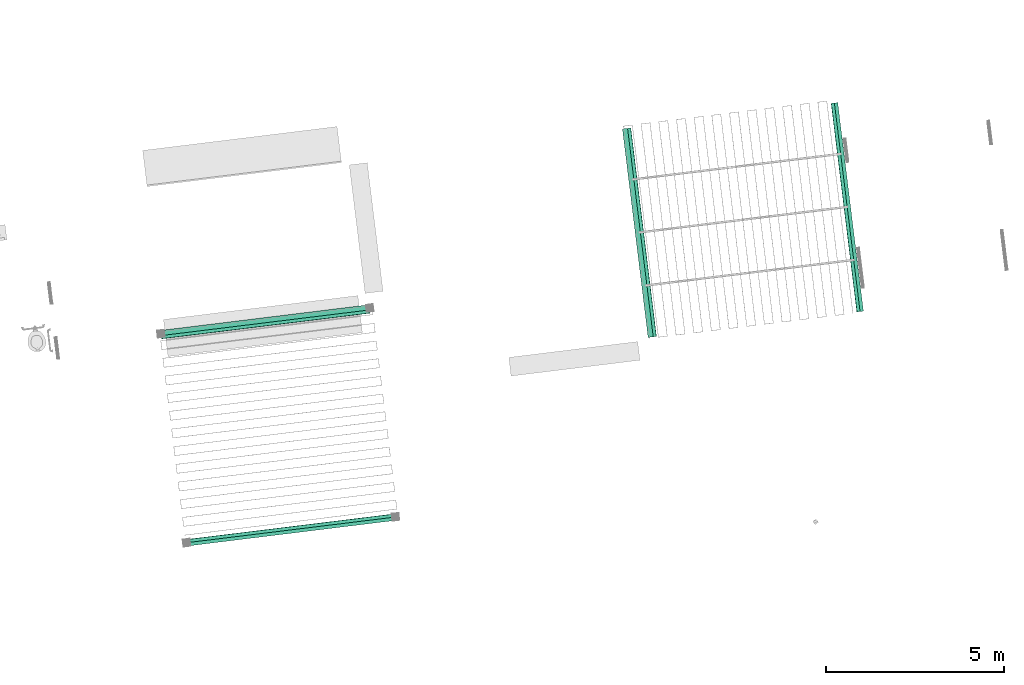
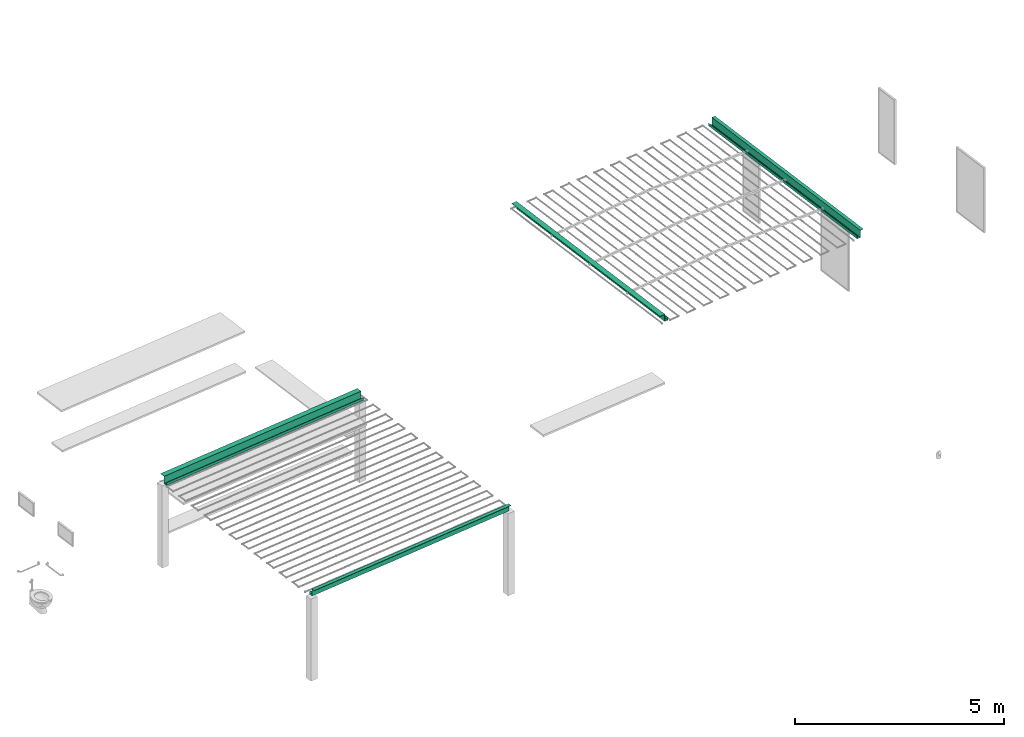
# One storey, part 3 of 10: 4 flow terminals.
"""IFC2X3 building model written with IfcOpenShell, lengths in metres."""

from ifc_helpers import new_model, entity, si_unit, converted_unit, derived_unit, direction, frame, origin, place, context, subcontext, project, spatial, polyline, outline, extrude, source, transform, mapped, material, type_object, type_shapes, element, save


model = new_model("IFC2X3")

# Units and contexts
model_context = context("Model", 3, precision=1e-05, world=origin(), true_north=direction((6.123031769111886e-17, 1.0)))
body_context = subcontext(model_context, "Body", "Model", "MODEL_VIEW")
ifc_project = project(units=[si_unit("LENGTHUNIT", "METRE"), si_unit("AREAUNIT", "SQUARE_METRE"), si_unit("VOLUMEUNIT", "CUBIC_METRE"), converted_unit("PLANEANGLEUNIT", "DEGREE", entity("IfcRatioMeasure", 0.017453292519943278), si_unit("PLANEANGLEUNIT", "RADIAN"), dimensions=[0, 0, 0, 0, 0, 0, 0]), si_unit("MASSUNIT", "GRAM", prefix="KILO"), derived_unit("MASSDENSITYUNIT", [(si_unit("MASSUNIT", "GRAM", prefix="KILO"), 1), (si_unit("LENGTHUNIT", "METRE"), -3)]), derived_unit("IONCONCENTRATIONUNIT", [(si_unit("MASSUNIT", "GRAM", prefix="KILO"), 1), (si_unit("LENGTHUNIT", "METRE"), -3)]), derived_unit("MOMENTOFINERTIAUNIT", [(si_unit("LENGTHUNIT", "METRE"), 4)]), si_unit("TIMEUNIT", "SECOND"), si_unit("FREQUENCYUNIT", "HERTZ"), si_unit("THERMODYNAMICTEMPERATUREUNIT", "DEGREE_CELSIUS"), derived_unit("THERMALTRANSMITTANCEUNIT", [(si_unit("MASSUNIT", "GRAM", prefix="KILO"), 1), (si_unit("THERMODYNAMICTEMPERATUREUNIT", "KELVIN"), -1), (si_unit("TIMEUNIT", "SECOND"), -3)]), derived_unit("THERMALCONDUCTANCEUNIT", [(si_unit("MASSUNIT", "GRAM", prefix="KILO"), 1), (si_unit("THERMODYNAMICTEMPERATUREUNIT", "KELVIN"), -1), (si_unit("TIMEUNIT", "SECOND"), -3), (si_unit("LENGTHUNIT", "METRE"), 1)]), derived_unit("VOLUMETRICFLOWRATEUNIT", [(si_unit("LENGTHUNIT", "METRE"), 3), (si_unit("TIMEUNIT", "SECOND"), -1)]), derived_unit("MASSFLOWRATEUNIT", [(si_unit("MASSUNIT", "GRAM", prefix="KILO"), 1), (si_unit("TIMEUNIT", "SECOND"), -1)]), derived_unit("ROTATIONALFREQUENCYUNIT", [(si_unit("TIMEUNIT", "SECOND"), -1)]), si_unit("ELECTRICCURRENTUNIT", "AMPERE"), si_unit("ELECTRICVOLTAGEUNIT", "VOLT"), si_unit("POWERUNIT", "WATT"), si_unit("FORCEUNIT", "NEWTON", prefix="KILO"), si_unit("ILLUMINANCEUNIT", "LUX"), si_unit("LUMINOUSFLUXUNIT", "LUMEN"), si_unit("LUMINOUSINTENSITYUNIT", "CANDELA"), derived_unit("USERDEFINED", [(si_unit("MASSUNIT", "GRAM", prefix="KILO"), -1), (si_unit("LENGTHUNIT", "METRE"), -2), (si_unit("TIMEUNIT", "SECOND"), 3), (si_unit("LUMINOUSFLUXUNIT", "LUMEN"), 1)]), derived_unit("USERDEFINED", [(si_unit("MASSUNIT", "GRAM", prefix="KILO"), 1), (si_unit("TIMEUNIT", "SECOND"), -3), (si_unit("LENGTHUNIT", "METRE"), 3), (si_unit("ELECTRICCURRENTUNIT", "AMPERE"), -2)]), derived_unit("SOUNDPOWERUNIT", [(si_unit("MASSUNIT", "GRAM", prefix="KILO"), 1), (si_unit("TIMEUNIT", "SECOND"), -3), (si_unit("LENGTHUNIT", "METRE"), 2)]), derived_unit("SOUNDPRESSUREUNIT", [(si_unit("MASSUNIT", "GRAM", prefix="KILO"), 1), (si_unit("LENGTHUNIT", "METRE"), -1), (si_unit("TIMEUNIT", "SECOND"), -2)]), derived_unit("LINEARVELOCITYUNIT", [(si_unit("LENGTHUNIT", "METRE"), 1), (si_unit("TIMEUNIT", "SECOND"), -1)]), si_unit("PRESSUREUNIT", "PASCAL"), derived_unit("USERDEFINED", [(si_unit("MASSUNIT", "GRAM", prefix="KILO"), 1), (si_unit("LENGTHUNIT", "METRE"), -2), (si_unit("TIMEUNIT", "SECOND"), -2)]), derived_unit("LINEARFORCEUNIT", [(si_unit("MASSUNIT", "GRAM", prefix="KILO"), 1), (si_unit("TIMEUNIT", "SECOND"), -2)]), derived_unit("PLANARFORCEUNIT", [(si_unit("MASSUNIT", "GRAM", prefix="KILO"), 1), (si_unit("LENGTHUNIT", "METRE"), -1), (si_unit("TIMEUNIT", "SECOND"), -2)]), derived_unit("SPECIFICHEATCAPACITYUNIT", [(si_unit("THERMODYNAMICTEMPERATUREUNIT", "KELVIN"), -1), (si_unit("LENGTHUNIT", "METRE"), 2), (si_unit("TIMEUNIT", "SECOND"), -2)]), derived_unit("HEATINGVALUEUNIT", [(si_unit("LENGTHUNIT", "METRE"), 2), (si_unit("TIMEUNIT", "SECOND"), -2)]), derived_unit("VAPORPERMEABILITYUNIT", [(si_unit("LENGTHUNIT", "METRE"), -1), (si_unit("TIMEUNIT", "SECOND"), 1)]), derived_unit("DYNAMICVISCOSITYUNIT", [(si_unit("MASSUNIT", "GRAM", prefix="KILO"), 1), (si_unit("TIMEUNIT", "SECOND"), -1), (si_unit("LENGTHUNIT", "METRE"), -1)]), derived_unit("THERMALEXPANSIONCOEFFICIENTUNIT", [(si_unit("THERMODYNAMICTEMPERATUREUNIT", "KELVIN"), -1)]), derived_unit("MODULUSOFELASTICITYUNIT", [(si_unit("MASSUNIT", "GRAM", prefix="KILO"), 1), (si_unit("LENGTHUNIT", "METRE"), -1), (si_unit("TIMEUNIT", "SECOND"), -2)]), derived_unit("ISOTHERMALMOISTURECAPACITYUNIT", [(si_unit("LENGTHUNIT", "METRE"), 3), (si_unit("MASSUNIT", "GRAM", prefix="KILO"), -1)]), derived_unit("MOISTUREDIFFUSIVITYUNIT", [(si_unit("TIMEUNIT", "SECOND"), -1), (si_unit("LENGTHUNIT", "METRE"), 2)])], contexts=[model_context])

# Site, building, storey
site_placement = place(None, origin())
site = spatial("IfcSite", under=ifc_project, at=site_placement, Name="Default", CompositionType="ELEMENT")
building_placement = place(site_placement, origin())
building = spatial("IfcBuilding", under=site, at=building_placement, Name="Projeto", CompositionType="ELEMENT")
storey_placement = place(building_placement, frame((0.0, 0.0, -2.581035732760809)))
storey = spatial("IfcBuildingStorey", under=building, at=storey_placement, Name="Nível 9", CompositionType="ELEMENT", Elevation=-2.581035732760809)

# Flow terminals
ifc_material = material(Name=".ET - EST METALICA")
distribution_element_type_1 = type_object("IfcDistributionElementType", Name="Vigas4:Vigas", material=ifc_material)
shared_shape_1 = source(origin(), body_context, "Body", "SweptSolid", [
    extrude(outline(polyline([(-0.10079999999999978, -0.07779999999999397), (-0.020799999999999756, -0.07779999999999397), (-0.020799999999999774, -0.07179999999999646), (-0.09479999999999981, -0.07179999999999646), (-0.09480000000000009, 0.01619999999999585), (0.11119999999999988, 0.01619999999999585), (0.1111999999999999, 0.11120000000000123), (0.10519999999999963, 0.11120000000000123), (0.1051999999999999, 0.02220000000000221), (-0.10080000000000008, 0.02220000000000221), (-0.10079999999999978, -0.07779999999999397)])), frame((-10.635238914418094, 23.030226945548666, -0.10520000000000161), z_axis=(0.992511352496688, 0.12215242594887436, 0.0), x_axis=(0.0, 0.0, 1.0)), (0.0, 0.0, 1.0), 5.8999999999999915),
])
type_shapes(distribution_element_type_1, [shared_shape_1])
flow_terminal_1_placement = place(storey_placement, frame((0.0013436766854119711, -0.01091762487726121, 2.581035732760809)))
element("IfcFlowTerminal", 1, at=flow_terminal_1_placement, inside=storey, type_object=distribution_element_type_1, material=ifc_material, Name="Vigas4:Vigas", ObjectType="Vigas4:Vigas", context=body_context, shape_type="MappedRepresentation", body=[
    mapped(shared_shape_1, transform((0.0, 0.0, 0.0), scale=1.0)),
])
distribution_element_type_2 = type_object("IfcDistributionElementType", Name="Vigas5:Vigas", material=ifc_material)
shared_shape_2 = source(origin(), body_context, "Body", "SweptSolid", [
    extrude(outline(polyline([(-0.08799999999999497, -0.10080000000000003), (0.011999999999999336, -0.10080000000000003), (0.01199999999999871, 0.10519999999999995), (0.1519999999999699, 0.1051999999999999), (0.15199999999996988, 0.11120000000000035), (0.005999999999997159, 0.1111999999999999), (0.005999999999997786, -0.09480000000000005), (-0.0819999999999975, -0.09480000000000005), (-0.08199999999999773, -0.020800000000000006), (-0.08799999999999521, -0.020800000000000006), (-0.08799999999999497, -0.10080000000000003)])), frame((-11.351760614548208, 28.81382555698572, -0.09357828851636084), z_axis=(0.9925113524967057, 0.12215242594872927, 0.0), x_axis=(-0.12215242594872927, 0.9925113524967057, 0.0)), (0.0, 0.0, 1.0), 5.8999999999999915),
])
type_shapes(distribution_element_type_2, [shared_shape_2])
flow_terminal_2_placement = place(storey_placement, frame((0.00024578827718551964, -0.0019970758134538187, 2.581035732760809)))
element("IfcFlowTerminal", 2, at=flow_terminal_2_placement, inside=storey, type_object=distribution_element_type_2, material=ifc_material, Name="Vigas5:Vigas", ObjectType="Vigas5:Vigas", context=body_context, shape_type="MappedRepresentation", body=[
    mapped(shared_shape_2, transform((0.0, 0.0, 0.0), scale=1.0)),
])
distribution_element_type_3 = type_object("IfcDistributionElementType", Name="Vigas2:Vigas", material=ifc_material)
shared_shape_3 = source(origin(), body_context, "Body", "SweptSolid", [
    extrude(outline(polyline([(-0.10079999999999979, -0.07779999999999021), (-0.020799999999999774, -0.07779999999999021), (-0.020799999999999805, -0.07180000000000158), (-0.09479999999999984, -0.07180000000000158), (-0.0948000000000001, 0.016199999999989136), (0.11119999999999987, 0.016199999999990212), (0.11119999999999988, 0.11120000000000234), (0.1051999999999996, 0.11120000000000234), (0.10519999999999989, 0.02219999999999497), (-0.1008000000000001, 0.02219999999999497), (-0.10079999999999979, -0.07779999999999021)])), frame((8.250798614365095, 29.501400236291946, -0.18520000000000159), z_axis=(-0.12215242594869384, 0.9925113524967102, 0.0), x_axis=(0.0, 0.0, 1.0)), (0.0, 0.0, 1.0), 5.899999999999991),
])
type_shapes(distribution_element_type_3, [shared_shape_3])
flow_terminal_3_placement = place(storey_placement, frame((0.0013436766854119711, -0.01091762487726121, 2.581035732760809)))
element("IfcFlowTerminal", 3, at=flow_terminal_3_placement, inside=storey, type_object=distribution_element_type_3, material=ifc_material, Name="Vigas2:Vigas", ObjectType="Vigas2:Vigas", context=body_context, shape_type="MappedRepresentation", body=[
    mapped(shared_shape_3, transform((0.0, 0.0, 0.0), scale=1.0)),
])
distribution_element_type_4 = type_object("IfcDistributionElementType", Name="Vigas3:Vigas", material=ifc_material)
shared_shape_4 = source(origin(), body_context, "Body", "SweptSolid", [
    extrude(outline(polyline([(-0.08799999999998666, -0.10080000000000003), (0.011999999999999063, -0.10080000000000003), (0.011999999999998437, 0.10519999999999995), (0.15199999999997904, 0.10519999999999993), (0.151999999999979, 0.11120000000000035), (0.006000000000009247, 0.11119999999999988), (0.006000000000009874, -0.09480000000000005), (-0.08199999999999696, -0.09480000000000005), (-0.08199999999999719, -0.020800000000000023), (-0.0879999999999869, -0.020800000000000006), (-0.08799999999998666, -0.10080000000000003)])), frame((2.467200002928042, 28.78487853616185, -0.1735782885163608), z_axis=(-0.12215242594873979, 0.9925113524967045, 0.0), x_axis=(-0.9925113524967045, -0.12215242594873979, 0.0)), (0.0, 0.0, 1.0), 5.899999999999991),
])
type_shapes(distribution_element_type_4, [shared_shape_4])
flow_terminal_4_placement = place(storey_placement, frame((0.00024578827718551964, -0.0019970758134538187, 2.581035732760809)))
element("IfcFlowTerminal", 4, at=flow_terminal_4_placement, inside=storey, type_object=distribution_element_type_4, material=ifc_material, Name="Vigas3:Vigas", ObjectType="Vigas3:Vigas", context=body_context, shape_type="MappedRepresentation", body=[
    mapped(shared_shape_4, transform((0.0, 0.0, 0.0), scale=1.0)),
])

save(model, "model.ifc")
